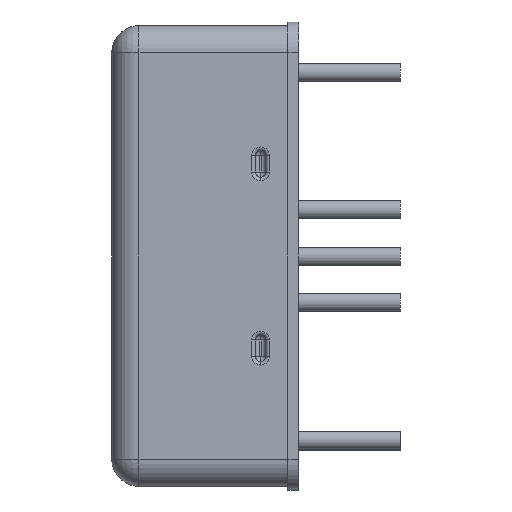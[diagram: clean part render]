
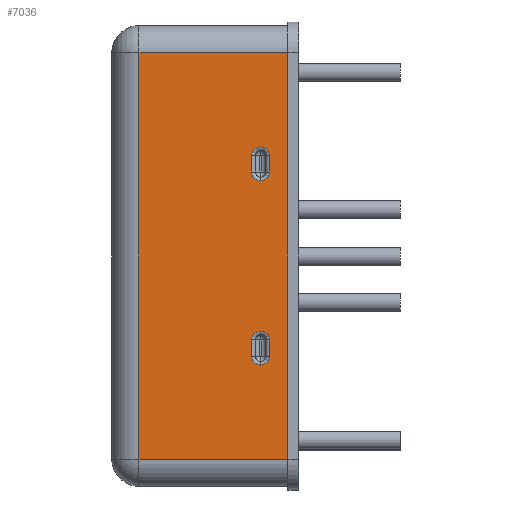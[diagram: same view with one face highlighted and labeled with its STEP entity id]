
A CAD part, left-side view. The second image highlights one B-rep face of the part: STEP entity #7036.
In plain terms, the highlighted planar face has unit normal (-1, 0, 0).
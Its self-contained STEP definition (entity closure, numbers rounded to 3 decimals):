
#24 = CARTESIAN_POINT ( 'NONE',  ( -25.4, 0., -11.2 ) ) ;
#64 = EDGE_LOOP ( 'NONE', ( #1549, #9261, #7565, #5865, #6897 ) ) ;
#224 = DIRECTION ( 'NONE',  ( 0., 1., 0. ) ) ;
#314 = EDGE_LOOP ( 'NONE', ( #6025, #593, #2616, #9156 ) ) ;
#378 = PLANE ( 'NONE',  #3668 ) ;
#430 = FACE_BOUND ( 'NONE', #9534, .T. ) ;
#456 = CARTESIAN_POINT ( 'NONE',  ( -25.4, 1.017, -12.7 ) ) ;
#582 = CARTESIAN_POINT ( 'NONE',  ( -25.4, 1.017, 4.63 ) ) ;
#593 = ORIENTED_EDGE ( 'NONE', *, *, #9270, .T. ) ;
#594 = EDGE_CURVE ( 'NONE', #9834, #9713, #4703, .T. ) ;
#652 = DIRECTION ( 'NONE',  ( 0., 0., -1. ) ) ;
#741 = CARTESIAN_POINT ( 'NONE',  ( -25.4, 1.017, -5.53 ) ) ;
#996 = DIRECTION ( 'NONE',  ( 1., 0., 0. ) ) ;
#1176 = VERTEX_POINT ( 'NONE', #7024 ) ;
#1400 = CARTESIAN_POINT ( 'NONE',  ( -25.4, 1.017, -4.63 ) ) ;
#1531 = CARTESIAN_POINT ( 'NONE',  ( -25.4, 1.983, -12.7 ) ) ;
#1549 = ORIENTED_EDGE ( 'NONE', *, *, #594, .T. ) ;
#1659 = EDGE_CURVE ( 'NONE', #8283, #5232, #6386, .T. ) ;
#1801 = AXIS2_PLACEMENT_3D ( 'NONE', #9114, #996, #8174 ) ;
#1971 = CARTESIAN_POINT ( 'NONE',  ( -25.4, 1.5, -5.53 ) ) ;
#2001 = FACE_OUTER_BOUND ( 'NONE', #314, .T. ) ;
#2067 = EDGE_CURVE ( 'NONE', #9713, #5940, #2389, .T. ) ;
#2111 = ORIENTED_EDGE ( 'NONE', *, *, #10625, .T. ) ;
#2194 = VERTEX_POINT ( 'NONE', #10707 ) ;
#2203 = AXIS2_PLACEMENT_3D ( 'NONE', #9151, #8200, #3695 ) ;
#2212 = VERTEX_POINT ( 'NONE', #10662 ) ;
#2248 = DIRECTION ( 'NONE',  ( 0., 0., -1. ) ) ;
#2389 = CIRCLE ( 'NONE', #9276, 0.483 ) ;
#2449 = VECTOR ( 'NONE', #3631, 1000. ) ;
#2470 = CARTESIAN_POINT ( 'NONE',  ( -25.4, 1.5, 4.147 ) ) ;
#2576 = VECTOR ( 'NONE', #8825, 1000. ) ;
#2616 = ORIENTED_EDGE ( 'NONE', *, *, #7068, .T. ) ;
#2629 = EDGE_CURVE ( 'NONE', #4391, #9834, #4944, .T. ) ;
#2833 = VECTOR ( 'NONE', #5860, 1000. ) ;
#2906 = VERTEX_POINT ( 'NONE', #4509 ) ;
#3413 = AXIS2_PLACEMENT_3D ( 'NONE', #10766, #11667, #652 ) ;
#3425 = VERTEX_POINT ( 'NONE', #24 ) ;
#3631 = DIRECTION ( 'NONE',  ( 0., -1., 0. ) ) ;
#3668 = AXIS2_PLACEMENT_3D ( 'NONE', #11208, #7769, #2248 ) ;
#3695 = DIRECTION ( 'NONE',  ( 0., 0., -1. ) ) ;
#3833 = VERTEX_POINT ( 'NONE', #5631 ) ;
#3842 = FACE_BOUND ( 'NONE', #64, .T. ) ;
#3916 = DIRECTION ( 'NONE',  ( 0., 0., -1. ) ) ;
#4076 = ORIENTED_EDGE ( 'NONE', *, *, #1659, .T. ) ;
#4161 = EDGE_CURVE ( 'NONE', #1176, #8283, #11727, .T. ) ;
#4391 = VERTEX_POINT ( 'NONE', #6222 ) ;
#4427 = DIRECTION ( 'NONE',  ( 0., 0., -1. ) ) ;
#4505 = VERTEX_POINT ( 'NONE', #11070 ) ;
#4509 = CARTESIAN_POINT ( 'NONE',  ( -25.4, 1.5, -6.013 ) ) ;
#4597 = DIRECTION ( 'NONE',  ( 0., 0., -1. ) ) ;
#4703 = CIRCLE ( 'NONE', #7757, 0.483 ) ;
#4804 = DIRECTION ( 'NONE',  ( 0., 0., 1. ) ) ;
#4910 = DIRECTION ( 'NONE',  ( 0., 0., 1. ) ) ;
#4933 = ORIENTED_EDGE ( 'NONE', *, *, #9483, .T. ) ;
#4944 = LINE ( 'NONE', #456, #10471 ) ;
#4945 = CARTESIAN_POINT ( 'NONE',  ( -25.4, 0., -12.7 ) ) ;
#5011 = LINE ( 'NONE', #1531, #2576 ) ;
#5218 = EDGE_CURVE ( 'NONE', #3833, #2212, #10288, .T. ) ;
#5232 = VERTEX_POINT ( 'NONE', #741 ) ;
#5331 = EDGE_CURVE ( 'NONE', #2194, #4391, #6874, .T. ) ;
#5388 = LINE ( 'NONE', #6565, #10498 ) ;
#5631 = CARTESIAN_POINT ( 'NONE',  ( -25.4, 8.2, 11.2 ) ) ;
#5860 = DIRECTION ( 'NONE',  ( 0., 0., -1. ) ) ;
#5865 = ORIENTED_EDGE ( 'NONE', *, *, #5331, .T. ) ;
#5940 = VERTEX_POINT ( 'NONE', #10765 ) ;
#6025 = ORIENTED_EDGE ( 'NONE', *, *, #5218, .T. ) ;
#6042 = CARTESIAN_POINT ( 'NONE',  ( -25.4, 1.5, 4.63 ) ) ;
#6119 = CIRCLE ( 'NONE', #7696, 0.483 ) ;
#6222 = CARTESIAN_POINT ( 'NONE',  ( -25.4, 1.017, 5.53 ) ) ;
#6310 = ORIENTED_EDGE ( 'NONE', *, *, #4161, .T. ) ;
#6346 = CARTESIAN_POINT ( 'NONE',  ( -25.4, 1.5, 4.63 ) ) ;
#6386 = LINE ( 'NONE', #11294, #2833 ) ;
#6472 = DIRECTION ( 'NONE',  ( 1., 0., 0. ) ) ;
#6565 = CARTESIAN_POINT ( 'NONE',  ( -25.4, 9.7, 11.2 ) ) ;
#6577 = DIRECTION ( 'NONE',  ( 1., 0., 0. ) ) ;
#6849 = EDGE_CURVE ( 'NONE', #5232, #2906, #6119, .T. ) ;
#6874 = CIRCLE ( 'NONE', #1801, 0.483 ) ;
#6897 = ORIENTED_EDGE ( 'NONE', *, *, #2629, .T. ) ;
#7024 = CARTESIAN_POINT ( 'NONE',  ( -25.4, 1.983, -4.63 ) ) ;
#7036 = ADVANCED_FACE ( 'NONE', ( #3842, #430, #2001 ), #378, .F. ) ;
#7068 = EDGE_CURVE ( 'NONE', #3425, #4505, #9797, .T. ) ;
#7079 = CARTESIAN_POINT ( 'NONE',  ( -25.4, 8.2, -12.7 ) ) ;
#7541 = VERTEX_POINT ( 'NONE', #10336 ) ;
#7565 = ORIENTED_EDGE ( 'NONE', *, *, #9629, .T. ) ;
#7696 = AXIS2_PLACEMENT_3D ( 'NONE', #1971, #6577, #3916 ) ;
#7757 = AXIS2_PLACEMENT_3D ( 'NONE', #6042, #9641, #8700 ) ;
#7769 = DIRECTION ( 'NONE',  ( 1., 0., 0. ) ) ;
#8114 = CIRCLE ( 'NONE', #2203, 0.483 ) ;
#8174 = DIRECTION ( 'NONE',  ( 0., 0., -1. ) ) ;
#8200 = DIRECTION ( 'NONE',  ( 1., 0., 0. ) ) ;
#8283 = VERTEX_POINT ( 'NONE', #1400 ) ;
#8499 = DIRECTION ( 'NONE',  ( 0., 0., -1. ) ) ;
#8571 = LINE ( 'NONE', #9073, #2449 ) ;
#8700 = DIRECTION ( 'NONE',  ( 0., 0., -1. ) ) ;
#8825 = DIRECTION ( 'NONE',  ( 0., 0., 1. ) ) ;
#9006 = VECTOR ( 'NONE', #4427, 1000. ) ;
#9073 = CARTESIAN_POINT ( 'NONE',  ( -25.4, 9.7, -11.2 ) ) ;
#9114 = CARTESIAN_POINT ( 'NONE',  ( -25.4, 1.5, 5.53 ) ) ;
#9151 = CARTESIAN_POINT ( 'NONE',  ( -25.4, 1.5, -5.53 ) ) ;
#9156 = ORIENTED_EDGE ( 'NONE', *, *, #11745, .T. ) ;
#9261 = ORIENTED_EDGE ( 'NONE', *, *, #2067, .T. ) ;
#9270 = EDGE_CURVE ( 'NONE', #2212, #3425, #8571, .T. ) ;
#9276 = AXIS2_PLACEMENT_3D ( 'NONE', #6346, #6472, #4597 ) ;
#9483 = EDGE_CURVE ( 'NONE', #7541, #1176, #10828, .T. ) ;
#9534 = EDGE_LOOP ( 'NONE', ( #4933, #6310, #4076, #9939, #2111 ) ) ;
#9629 = EDGE_CURVE ( 'NONE', #5940, #2194, #5011, .T. ) ;
#9641 = DIRECTION ( 'NONE',  ( 1., 0., 0. ) ) ;
#9713 = VERTEX_POINT ( 'NONE', #2470 ) ;
#9797 = LINE ( 'NONE', #4945, #10092 ) ;
#9834 = VERTEX_POINT ( 'NONE', #582 ) ;
#9939 = ORIENTED_EDGE ( 'NONE', *, *, #6849, .T. ) ;
#10092 = VECTOR ( 'NONE', #4910, 1000. ) ;
#10288 = LINE ( 'NONE', #7079, #9006 ) ;
#10336 = CARTESIAN_POINT ( 'NONE',  ( -25.4, 1.983, -5.53 ) ) ;
#10471 = VECTOR ( 'NONE', #8499, 1000. ) ;
#10498 = VECTOR ( 'NONE', #224, 1000. ) ;
#10544 = VECTOR ( 'NONE', #4804, 1000. ) ;
#10625 = EDGE_CURVE ( 'NONE', #2906, #7541, #8114, .T. ) ;
#10662 = CARTESIAN_POINT ( 'NONE',  ( -25.4, 8.2, -11.2 ) ) ;
#10707 = CARTESIAN_POINT ( 'NONE',  ( -25.4, 1.983, 5.53 ) ) ;
#10765 = CARTESIAN_POINT ( 'NONE',  ( -25.4, 1.983, 4.63 ) ) ;
#10766 = CARTESIAN_POINT ( 'NONE',  ( -25.4, 1.5, -4.63 ) ) ;
#10828 = LINE ( 'NONE', #11214, #10544 ) ;
#11070 = CARTESIAN_POINT ( 'NONE',  ( -25.4, 0., 11.2 ) ) ;
#11208 = CARTESIAN_POINT ( 'NONE',  ( -25.4, 9.7, -12.7 ) ) ;
#11214 = CARTESIAN_POINT ( 'NONE',  ( -25.4, 1.983, -12.7 ) ) ;
#11294 = CARTESIAN_POINT ( 'NONE',  ( -25.4, 1.017, -12.7 ) ) ;
#11667 = DIRECTION ( 'NONE',  ( 1., 0., 0. ) ) ;
#11727 = CIRCLE ( 'NONE', #3413, 0.483 ) ;
#11745 = EDGE_CURVE ( 'NONE', #4505, #3833, #5388, .T. ) ;
